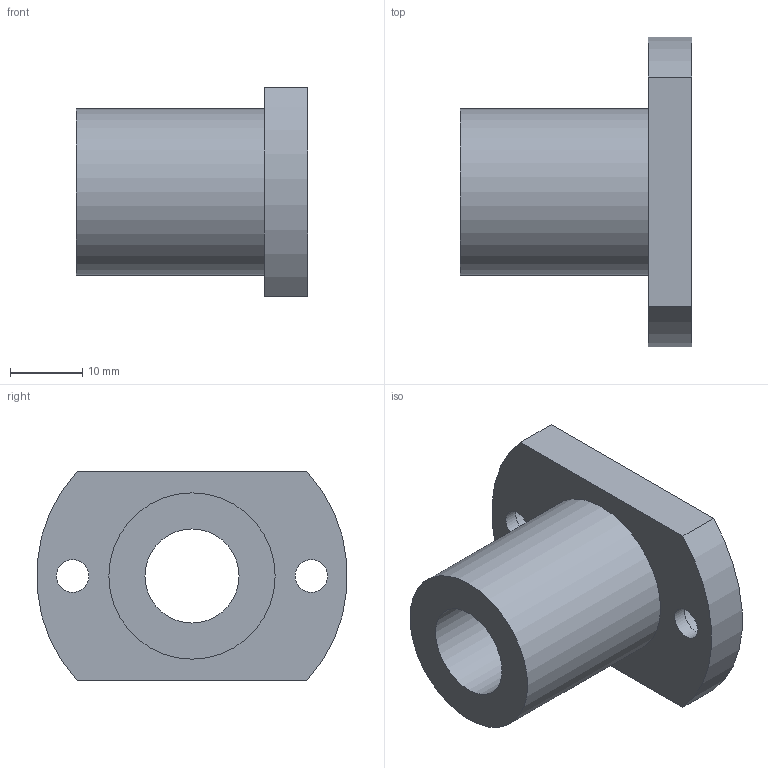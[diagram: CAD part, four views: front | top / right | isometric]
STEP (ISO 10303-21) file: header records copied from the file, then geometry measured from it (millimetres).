
FILE_DESCRIPTION(/* description */ ('Unknown'),/* implementation_level */ '2;1');
FILE_NAME(/* name */ 'LMH13UU',/* time_stamp */ '2025-02-03T14:07:34+08:00',/* author */ ('Unknown'),/* organization */ ('Unknown'),/* preprocessor_version */ 'ST-DEVELOPER v18.102',/* originating_system */ 'Solid Edge',/* authorisation */ 'Unknown');
FILE_SCHEMA (('AUTOMOTIVE_DESIGN {1 0 10303 214 3 1 1}'));
Length unit declared in the file: millimetre
Products named in the file (1): LMH13UU
Bounding box: 32 x 42.85 x 29 mm (x, y, z)
Volume: 13000.2 mm3; surface area: 6155.7 mm2
Topology: 1 solids, 1 shells, 15 faces, 30 edges, 20 vertices
Faces by surface type: cylinder 8, plane 7
Full cylindrical faces by diameter (mm): 4.5 x2, 7.5 x2, 13 x1, 23 x1
Entity records: 412 total; most frequent: DIRECTION 72, CARTESIAN_POINT 60, ORIENTED_EDGE 48, AXIS2_PLACEMENT_3D 32, EDGE_LOOP 30, FACE_BOUND 30, EDGE_CURVE 24, VERTEX_POINT 20
